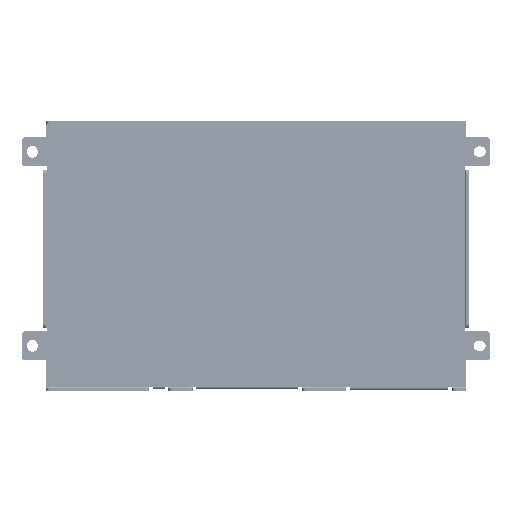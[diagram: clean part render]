
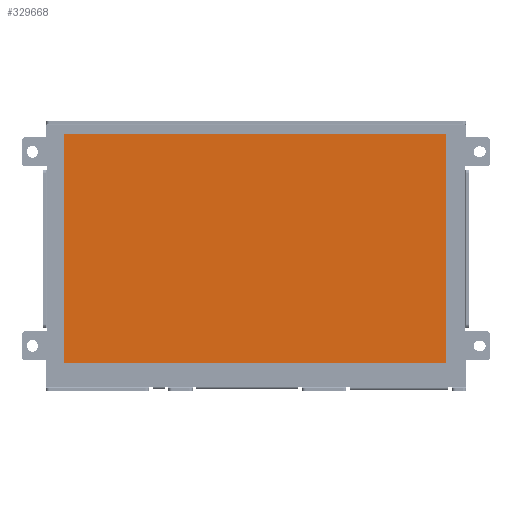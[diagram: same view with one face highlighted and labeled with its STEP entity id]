
A CAD part, top view. The second image highlights one B-rep face of the part: STEP entity #329668.
In plain terms, the highlighted planar face has unit normal (0, 0, 1).
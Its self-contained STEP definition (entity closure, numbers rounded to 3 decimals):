
#10280=PLANE('',#346312);
#23140=FACE_OUTER_BOUND('',#39206,.T.);
#39206=EDGE_LOOP('',(#233727,#233728,#233729,#233730));
#56433=LINE('',#451868,#99052);
#56437=LINE('',#451875,#99056);
#56440=LINE('',#451881,#99059);
#56442=LINE('',#451884,#99061);
#99052=VECTOR('',#368097,10.);
#99056=VECTOR('',#368103,10.);
#99059=VECTOR('',#368108,10.);
#99061=VECTOR('',#368112,10.);
#146122=VERTEX_POINT('',#451865);
#146123=VERTEX_POINT('',#451867);
#146125=VERTEX_POINT('',#451873);
#146127=VERTEX_POINT('',#451879);
#183429=EDGE_CURVE('',#146122,#146123,#56433,.T.);
#183433=EDGE_CURVE('',#146125,#146122,#56437,.T.);
#183436=EDGE_CURVE('',#146127,#146125,#56440,.T.);
#183438=EDGE_CURVE('',#146123,#146127,#56442,.T.);
#233727=ORIENTED_EDGE('',*,*,#183438,.F.);
#233728=ORIENTED_EDGE('',*,*,#183429,.F.);
#233729=ORIENTED_EDGE('',*,*,#183433,.F.);
#233730=ORIENTED_EDGE('',*,*,#183436,.F.);
#329668=ADVANCED_FACE('',(#23140),#10280,.F.);
#346312=AXIS2_PLACEMENT_3D('',#451885,#368113,#368114);
#368097=DIRECTION('',(1.,0.,0.));
#368103=DIRECTION('',(0.,1.,0.));
#368108=DIRECTION('',(-1.,0.,0.));
#368112=DIRECTION('',(0.,-1.,0.));
#368113=DIRECTION('center_axis',(0.,0.,-1.));
#368114=DIRECTION('ref_axis',(-1.,0.,0.));
#451865=CARTESIAN_POINT('',(-55.3,33.05,1.465));
#451867=CARTESIAN_POINT('',(54.7,33.05,1.465));
#451868=CARTESIAN_POINT('',(54.7,33.05,1.465));
#451873=CARTESIAN_POINT('',(-55.3,-33.05,1.465));
#451875=CARTESIAN_POINT('',(-55.3,33.05,1.465));
#451879=CARTESIAN_POINT('',(54.7,-33.05,1.465));
#451881=CARTESIAN_POINT('',(-55.3,-33.05,1.465));
#451884=CARTESIAN_POINT('',(54.7,-33.05,1.465));
#451885=CARTESIAN_POINT('Origin',(-0.3,0.,1.465));
